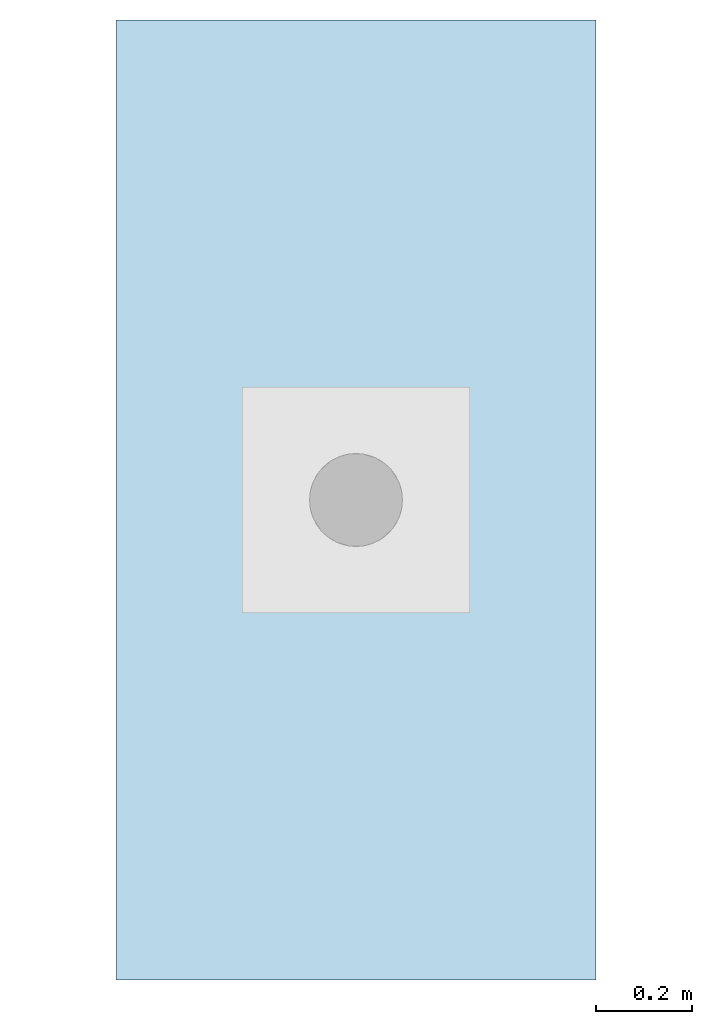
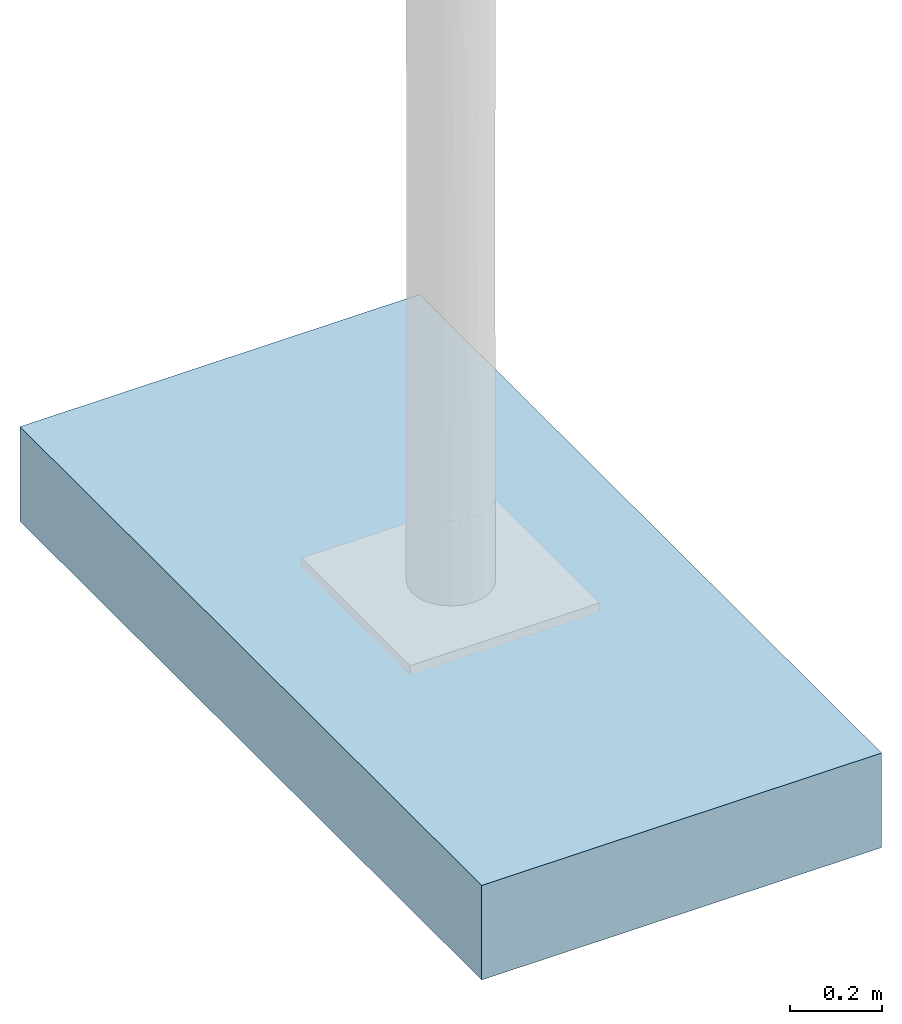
# One storey, incomplete: 1 slab.
"""IFC4 building model written with IfcOpenShell, lengths in metres."""

from ifc_helpers import new_model, entity, si_unit, converted_unit, direction, frame, frame_2d, origin, place, context, subcontext, project, spatial, rectangle, extrude, type_object, element, save


model = new_model("IFC4")

# Units and contexts
model_context = context("Model", 3, precision=1e-05, world=origin(), true_north=direction((6.123031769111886e-17, 1.0)))
body_context = subcontext(model_context, "Body", "Model", "MODEL_VIEW")
ifc_project = project(units=[si_unit("LENGTHUNIT", "METRE"), converted_unit("PLANEANGLEUNIT", "DEGREE", entity("IfcPlaneAngleMeasure", 0.017453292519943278), si_unit("PLANEANGLEUNIT", "RADIAN"), dimensions=[0, 0, 0, 0, 0, 0, 0]), si_unit("AREAUNIT", "SQUARE_METRE")], contexts=[model_context])

# Site, building, storey
site_placement = place(None, origin())
site = spatial("IfcSite", under=ifc_project, at=site_placement, Name="Default", CompositionType="ELEMENT")
building_placement = place(site_placement, origin())
building = spatial("IfcBuilding", under=site, at=building_placement, CompositionType="ELEMENT")
storey_placement = place(building_placement, origin())
storey = spatial("IfcBuildingStorey", under=building, at=storey_placement, Name="Ebene 0", CompositionType="ELEMENT", Elevation=0.0)

# Slab
slab_type = type_object("IfcSlabType", Name="DB_ZIM_Fundament:DB_ZIM_Fundament", PredefinedType="BASESLAB")
slab_placement = place(storey_placement, origin())
element("IfcSlab", 1, at=slab_placement, inside=storey, type_object=slab_type, Name="DB_ZIM_Fundament:DB_ZIM_Fundament", ObjectType="DB_ZIM_Fundament:DB_ZIM_Fundament", PredefinedType="BASESLAB", context=body_context, shape_type="SweptSolid", body=[
    extrude(rectangle(XDim=0.9999999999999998, YDim=2.0, at=frame_2d((0.09999999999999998, 0.0), x_axis=(1.0, 0.0))), frame((-0.09999999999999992, 0.0, -0.5001999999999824)), (0.0, 0.0, 1.0), 0.25),
])

save(model, "model.ifc")
